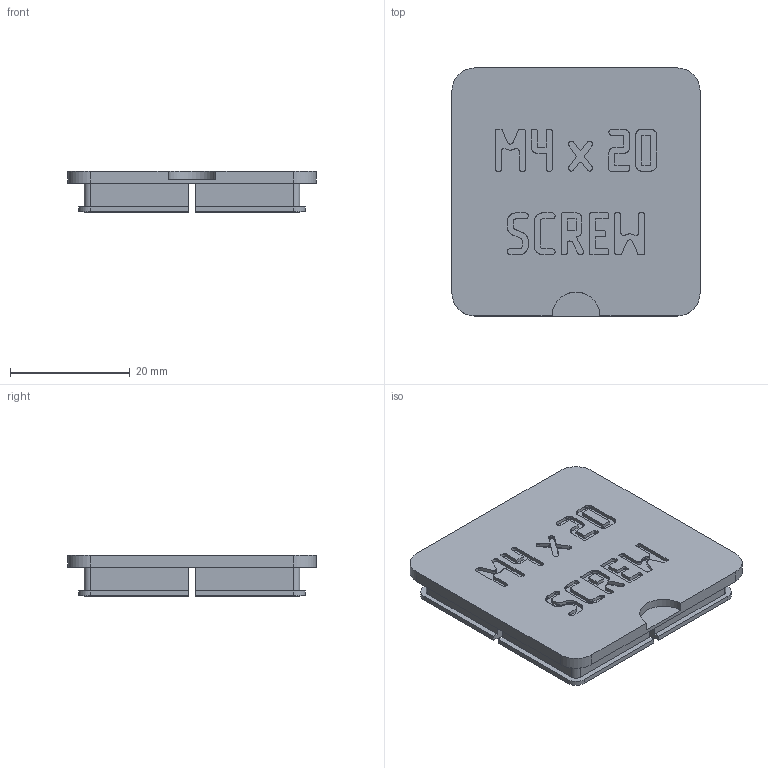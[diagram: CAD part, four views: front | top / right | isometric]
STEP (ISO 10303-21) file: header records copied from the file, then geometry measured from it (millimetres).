
FILE_DESCRIPTION(('Open CASCADE Model'),'2;1');
FILE_NAME('Open CASCADE Shape Model','2026-11-03T17:09:27',('Author'),( 'Open CASCADE'),'Open CASCADE STEP processor 8.0','build123d', 'Unknown');
FILE_SCHEMA(('AUTOMOTIVE_DESIGN { 1 0 10303 214 1 1 1 1 }'));
Products named in the file (1): COMPOUND
Bounding box: 41.5 x 41.5 x 6.9 mm (x, y, z)
Volume: 4181.4 mm3; surface area: 5549.4 mm2
Topology: 1 solids, 1 shells, 1160 faces, 3435 edges, 2290 vertices
Faces by surface type: plane 1139, cylinder 21
Entity records: 82578 total; most frequent: CARTESIAN_POINT 14112, DIRECTION 12473, LINE 10057, VECTOR 10057, ORIENTED_EDGE 6870, PCURVE 6870, DEFINITIONAL_REPRESENTATION 6870, EDGE_CURVE 3435
